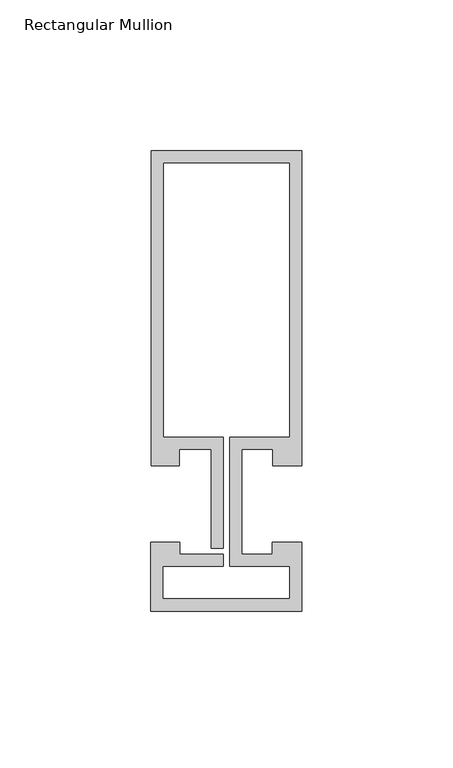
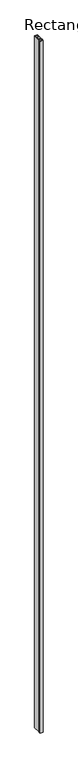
"""IFC4 building model written with IfcOpenShell, lengths in millimetres: member geometry, Rectangular Mullion : Reynaers_CW-50_Transom-Transom_104.5mm_Facecap-02C."""

from ifc_helpers import new_model, si_unit, frame, origin, place, context, project, spatial, polyline, outline, extrude, source, transform, mapped, element, save


def rectangular_mullion_f1bd58e3(model_context):
    return source(origin(), model_context, "Body", "SweptSolid", [
        extrude(outline(polyline([(25.1995941, -12.7331291), (25.1995941, -35.5313894), (-24.994845, -35.5313894), (-24.994845, -12.7331291), (-15.2996495, -12.7331291), (-15.2996495, -16.7331291), (-0.9004059, -16.7331291), (-0.9004059, -20.7331291), (-20.994845, -20.7331291), (-20.994845, -31.5313894), (21.1995941, -31.5313894), (21.1995941, -20.7331291), (1.2995941, -20.7331291), (1.2995941, 22.1331291), (21.1995941, 22.1331291), (21.1995941, 113.2331291), (-20.8004059, 113.2331291), (-20.8004059, 22.1331291), (-0.9004059, 22.1331291), (-0.9004059, -14.7331291), (-4.9004059, -14.7331291), (-4.9004059, 18.1331291), (-15.499, 18.1331291), (-15.499, 12.7331291), (-24.8004059, 12.7331291), (-24.8004059, 117.2331291), (25.1995941, 117.2331291), (25.1995941, 12.7331291), (15.499, 12.7331291), (15.499, 18.1331291), (5.2995941, 18.1331291), (5.2995941, -16.7331291), (15.2996495, -16.7331291), (15.2996495, -12.7331291), (25.1995941, -12.7331291)])), frame((0.0, 0.0, -12000.0), z_axis=(0.0, 0.0, 1.0), x_axis=(1.0, 0.0, 0.0)), (0.0, 0.0, 1.0), 12000.0),
    ])


if __name__ == "__main__":
    model = new_model("IFC4")
    model_context = context("Model", 3, world=origin())
    ifc_project = project(units=[si_unit("LENGTHUNIT", "METRE", prefix="MILLI")], contexts=[model_context])
    site = spatial("IfcSite", under=ifc_project)
    building = spatial("IfcBuilding", under=site)
    placement = place(None, origin())
    rectangular_mullion_shape = rectangular_mullion_f1bd58e3(model_context)
    element("IfcMember", 1, ObjectType="Rectangular Mullion : Reynaers_CW-50_Transom-Transom_104.5mm_Facecap-02C", at=placement, inside=building, context=model_context, shape_type="MappedRepresentation", body=[
        mapped(rectangular_mullion_shape, transform((0.0, 0.0, 0.0), x_axis=(1.0, 0.0, 0.0), y_axis=(0.0, 1.0, 0.0), z_axis=(0.0, 0.0, 1.0))),
    ])
    save(model, "model.ifc")
